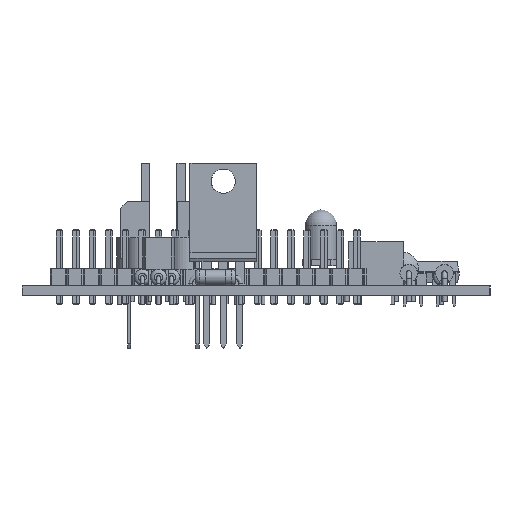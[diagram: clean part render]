
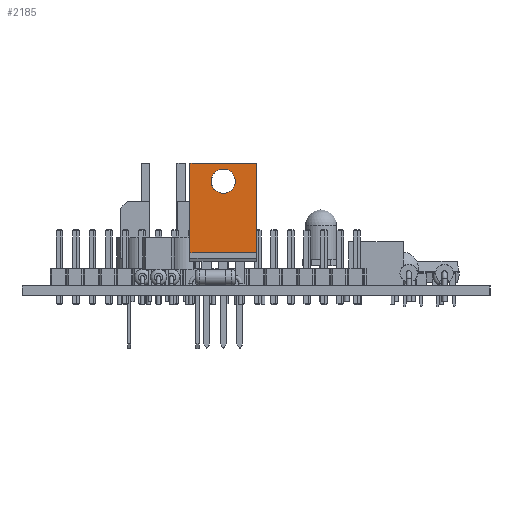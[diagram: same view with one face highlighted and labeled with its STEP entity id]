
A CAD part, left-side view. The second image highlights one B-rep face of the part: STEP entity #2185.
In plain terms, the highlighted planar face has unit normal (-1, 0, 0) as drawn and (0, 1, 0) by its records, which use the part's own axes.
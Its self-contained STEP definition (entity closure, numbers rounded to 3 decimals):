
#1630 = VERTEX_POINT('',#1631);
#1631 = CARTESIAN_POINT('',(-2.575,3.16,18.775));
#1637 = EDGE_CURVE('',#1638,#1630,#1640,.T.);
#1638 = VERTEX_POINT('',#1639);
#1639 = CARTESIAN_POINT('',(-2.575,3.16,5.));
#1640 = LINE('',#1641,#1642);
#1641 = CARTESIAN_POINT('',(-2.575,3.16,5.));
#1642 = VECTOR('',#1643,1.);
#1643 = DIRECTION('',(0.,0.,1.));
#1696 = VERTEX_POINT('',#1697);
#1697 = CARTESIAN_POINT('',(7.655,3.16,5.));
#1703 = EDGE_CURVE('',#1696,#1704,#1706,.T.);
#1704 = VERTEX_POINT('',#1705);
#1705 = CARTESIAN_POINT('',(7.655,3.16,18.775));
#1706 = LINE('',#1707,#1708);
#1707 = CARTESIAN_POINT('',(7.655,3.16,5.));
#1708 = VECTOR('',#1709,1.);
#1709 = DIRECTION('',(0.,0.,1.));
#1728 = EDGE_CURVE('',#1638,#1696,#1729,.T.);
#1729 = LINE('',#1730,#1731);
#1730 = CARTESIAN_POINT('',(-2.575,3.16,5.));
#1731 = VECTOR('',#1732,1.);
#1732 = DIRECTION('',(1.,0.,0.));
#2185 = ADVANCED_FACE('',(#2186,#2197),#2208,.T.);
#2186 = FACE_BOUND('',#2187,.T.);
#2187 = EDGE_LOOP('',(#2188,#2189,#2195,#2196));
#2188 = ORIENTED_EDGE('',*,*,#1637,.T.);
#2189 = ORIENTED_EDGE('',*,*,#2190,.T.);
#2190 = EDGE_CURVE('',#1630,#1704,#2191,.T.);
#2191 = LINE('',#2192,#2193);
#2192 = CARTESIAN_POINT('',(-2.575,3.16,18.775));
#2193 = VECTOR('',#2194,1.);
#2194 = DIRECTION('',(1.,0.,0.));
#2195 = ORIENTED_EDGE('',*,*,#1703,.F.);
#2196 = ORIENTED_EDGE('',*,*,#1728,.F.);
#2197 = FACE_BOUND('',#2198,.T.);
#2198 = EDGE_LOOP('',(#2199));
#2199 = ORIENTED_EDGE('',*,*,#2200,.T.);
#2200 = EDGE_CURVE('',#2201,#2201,#2203,.T.);
#2201 = VERTEX_POINT('',#2202);
#2202 = CARTESIAN_POINT('',(4.408,3.16,16.005));
#2203 = CIRCLE('',#2204,1.868);
#2204 = AXIS2_PLACEMENT_3D('',#2205,#2206,#2207);
#2205 = CARTESIAN_POINT('',(2.54,3.16,16.005));
#2206 = DIRECTION('',(0.,-1.,0.));
#2207 = DIRECTION('',(1.,0.,0.));
#2208 = PLANE('',#2209);
#2209 = AXIS2_PLACEMENT_3D('',#2210,#2211,#2212);
#2210 = CARTESIAN_POINT('',(-2.575,3.16,5.));
#2211 = DIRECTION('',(0.,1.,0.));
#2212 = DIRECTION('',(1.,0.,0.));
